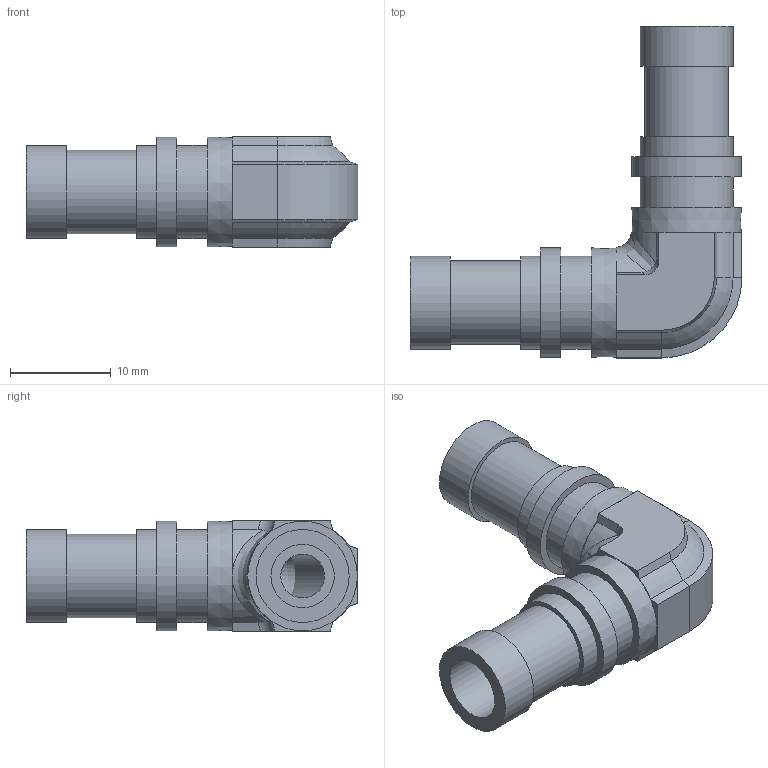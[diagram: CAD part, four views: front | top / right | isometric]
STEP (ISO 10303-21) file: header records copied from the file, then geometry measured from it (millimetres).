
FILE_DESCRIPTION (( 'STEP AP203' ), '1' );
FILE_NAME ('70-6.3UE-P.STEP', '2014-02-26T08:44:04', ( '' ), ( '' ), 'SwSTEP 2.0', 'SolidWorks 2012', '' );
FILE_SCHEMA (( 'CONFIG_CONTROL_DESIGN' ));
Length unit declared in the file: millimetre
Products named in the file (2): 70-6.3UE-P; 70-6.3UE-P^70-6.3UE-P
Assembly tree (1 placements, depth 2):
  70-6.3UE-P
    70-6.3UE-P^70-6.3UE-P
Bounding box: 33 x 33 x 11 mm (x, y, z)
Volume: 3080.4 mm3; surface area: 2823.8 mm2
Topology: 1 solids, 1 shells, 67 faces, 144 edges, 93 vertices
Faces by surface type: plane 32, cylinder 25, cone 6, torus 3, bspline 1
Full cylindrical faces by diameter (mm): 4.35 x2, 6.3 x2, 8.3 x2, 9.25 x6, 10.9 x2
Entity records: 2082 total; most frequent: CARTESIAN_POINT 499, DIRECTION 298, ORIENTED_EDGE 252, EDGE_CURVE 126, AXIS2_PLACEMENT_3D 121, EDGE_LOOP 99, VERTEX_POINT 91, FACE_OUTER_BOUND 81
